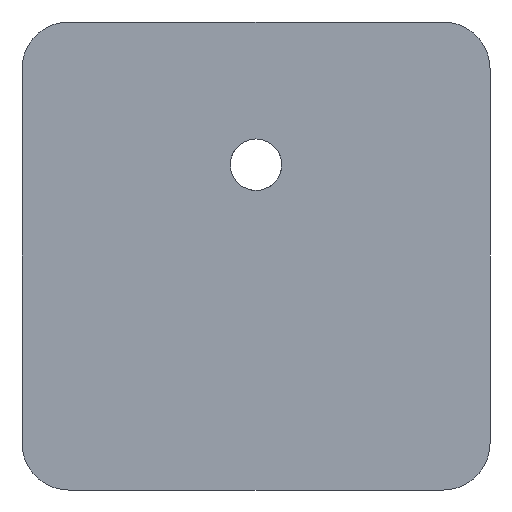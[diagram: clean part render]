
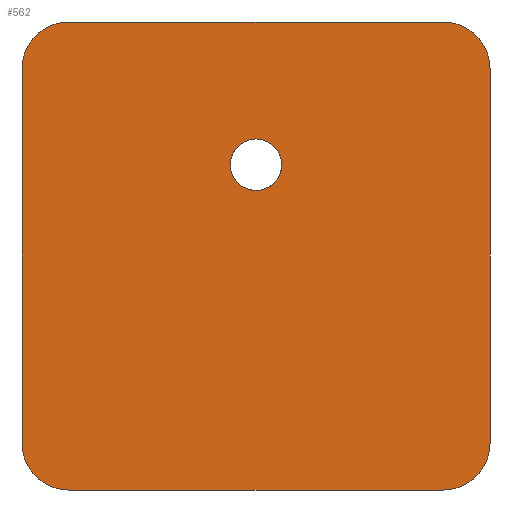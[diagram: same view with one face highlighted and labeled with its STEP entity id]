
A CAD part, front view. The second image highlights one B-rep face of the part: STEP entity #562.
In plain terms, the highlighted planar face has unit normal (0, -1, 0).
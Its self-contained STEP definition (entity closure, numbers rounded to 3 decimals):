
#24=FACE_BOUND('',#118,.T.);
#42=PLANE('',#647);
#76=FACE_OUTER_BOUND('',#117,.T.);
#117=EDGE_LOOP('',(#504,#505,#506,#507,#508,#509,#510,#511));
#118=EDGE_LOOP('',(#512));
#143=LINE('',#925,#183);
#149=LINE('',#947,#189);
#152=LINE('',#955,#192);
#154=LINE('',#961,#194);
#183=VECTOR('',#752,10.);
#189=VECTOR('',#774,10.);
#192=VECTOR('',#783,10.);
#194=VECTOR('',#791,10.);
#218=CIRCLE('',#615,1.);
#223=CIRCLE('',#623,1.);
#224=CIRCLE('',#626,1.);
#225=CIRCLE('',#629,1.);
#234=CIRCLE('',#646,0.55);
#262=VERTEX_POINT('',#915);
#263=VERTEX_POINT('',#917);
#265=VERTEX_POINT('',#923);
#272=VERTEX_POINT('',#941);
#273=VERTEX_POINT('',#945);
#274=VERTEX_POINT('',#949);
#275=VERTEX_POINT('',#953);
#276=VERTEX_POINT('',#957);
#284=VERTEX_POINT('',#987);
#325=EDGE_CURVE('',#262,#263,#218,.T.);
#329=EDGE_CURVE('',#262,#265,#143,.T.);
#338=EDGE_CURVE('',#272,#265,#223,.T.);
#340=EDGE_CURVE('',#272,#273,#149,.T.);
#341=EDGE_CURVE('',#274,#273,#224,.T.);
#344=EDGE_CURVE('',#274,#275,#152,.T.);
#346=EDGE_CURVE('',#276,#275,#225,.T.);
#347=EDGE_CURVE('',#276,#263,#154,.T.);
#359=EDGE_CURVE('',#284,#284,#234,.T.);
#504=ORIENTED_EDGE('',*,*,#325,.F.);
#505=ORIENTED_EDGE('',*,*,#329,.T.);
#506=ORIENTED_EDGE('',*,*,#338,.F.);
#507=ORIENTED_EDGE('',*,*,#340,.T.);
#508=ORIENTED_EDGE('',*,*,#341,.F.);
#509=ORIENTED_EDGE('',*,*,#344,.T.);
#510=ORIENTED_EDGE('',*,*,#346,.F.);
#511=ORIENTED_EDGE('',*,*,#347,.T.);
#512=ORIENTED_EDGE('',*,*,#359,.T.);
#562=ADVANCED_FACE('',(#76,#24),#42,.F.);
#615=AXIS2_PLACEMENT_3D('',#918,#745,#746);
#623=AXIS2_PLACEMENT_3D('',#943,#769,#770);
#626=AXIS2_PLACEMENT_3D('',#950,#777,#778);
#629=AXIS2_PLACEMENT_3D('',#959,#787,#788);
#646=AXIS2_PLACEMENT_3D('',#988,#825,#826);
#647=AXIS2_PLACEMENT_3D('',#990,#828,#829);
#745=DIRECTION('center_axis',(0.,1.,0.));
#746=DIRECTION('ref_axis',(-0.707,0.,0.707));
#752=DIRECTION('',(0.,0.,-1.));
#769=DIRECTION('center_axis',(0.,1.,0.));
#770=DIRECTION('ref_axis',(-0.707,0.,-0.707));
#774=DIRECTION('',(1.,0.,0.));
#777=DIRECTION('center_axis',(0.,1.,0.));
#778=DIRECTION('ref_axis',(0.707,0.,-0.707));
#783=DIRECTION('',(0.,0.,1.));
#787=DIRECTION('center_axis',(0.,1.,0.));
#788=DIRECTION('ref_axis',(0.707,0.,0.707));
#791=DIRECTION('',(-1.,0.,0.));
#825=DIRECTION('center_axis',(0.,1.,0.));
#826=DIRECTION('ref_axis',(1.,0.,0.));
#828=DIRECTION('center_axis',(0.,1.,0.));
#829=DIRECTION('ref_axis',(1.,0.,0.));
#915=CARTESIAN_POINT('',(-5.,-3.9,4.));
#917=CARTESIAN_POINT('',(-4.,-3.9,5.));
#918=CARTESIAN_POINT('Origin',(-4.,-3.9,4.));
#923=CARTESIAN_POINT('',(-5.,-3.9,-4.));
#925=CARTESIAN_POINT('',(-5.,-3.9,5.));
#941=CARTESIAN_POINT('',(-4.,-3.9,-5.));
#943=CARTESIAN_POINT('Origin',(-4.,-3.9,-4.));
#945=CARTESIAN_POINT('',(4.,-3.9,-5.));
#947=CARTESIAN_POINT('',(-5.,-3.9,-5.));
#949=CARTESIAN_POINT('',(5.,-3.9,-4.));
#950=CARTESIAN_POINT('Origin',(4.,-3.9,-4.));
#953=CARTESIAN_POINT('',(5.,-3.9,4.));
#955=CARTESIAN_POINT('',(5.,-3.9,-5.));
#957=CARTESIAN_POINT('',(4.,-3.9,5.));
#959=CARTESIAN_POINT('Origin',(4.,-3.9,4.));
#961=CARTESIAN_POINT('',(5.,-3.9,5.));
#987=CARTESIAN_POINT('',(-0.55,-3.9,1.95));
#988=CARTESIAN_POINT('Origin',(0.,-3.9,1.95));
#990=CARTESIAN_POINT('Origin',(0.,-3.9,0.));
